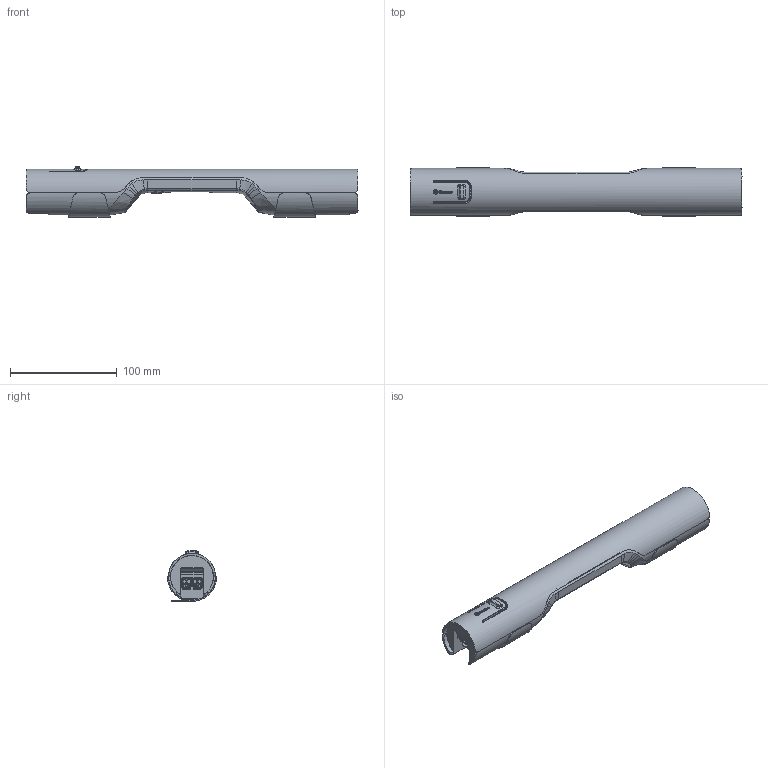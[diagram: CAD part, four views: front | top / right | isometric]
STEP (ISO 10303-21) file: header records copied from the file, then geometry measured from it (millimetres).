
FILE_DESCRIPTION(/* description */ ('Unknown'),/* implementation_level */ '2;1');
FILE_NAME(/* name */ '7L.4X.0.Y.1100',/* time_stamp */ '2019-11-04T09:58:28+01:00',/* author */ ('Unknown'),/* organization */ ('Unknown'),/* preprocessor_version */ 'ST-DEVELOPER v16.7',/* originating_system */ 'DEX',/* authorisation */ $);
FILE_SCHEMA (('AP242_MANAGED_MODEL_BASED_3D_ENGINEERING_MIM_LF { 1 0 10303 442 1 1 4 }','AUTOMOTIVE_DESIGN {1 0 10303 214 3 1 1}'));
Products named in the file (1): 7L.4X.0.Y.1100-Pulsante Morsetto - pelle x catalogo new
Bounding box: 310.57 x 46 x 47.47 mm (x, y, z)
Surface area: 72161.6 mm2 (no closed solid volume)
Topology: 0 solids, 23 shells, 1599 faces, 5054 edges, 3491 vertices
Faces by surface type: plane 1177, cylinder 201, bspline 182, torus 31, cone 5, sphere 3
Full cylindrical faces by diameter (mm): 1.75 x2, 3.3 x2, 4 x2, 4.2 x2, 4.25 x2, 4.263 x1
Entity records: 68734 total; most frequent: CARTESIAN_POINT 24322, ORIENTED_EDGE 9197, DIRECTION 6739, EDGE_CURVE 5032, VERTEX_POINT 3489, LINE 3165, VECTOR 3165, AXIS2_PLACEMENT_3D 1787
